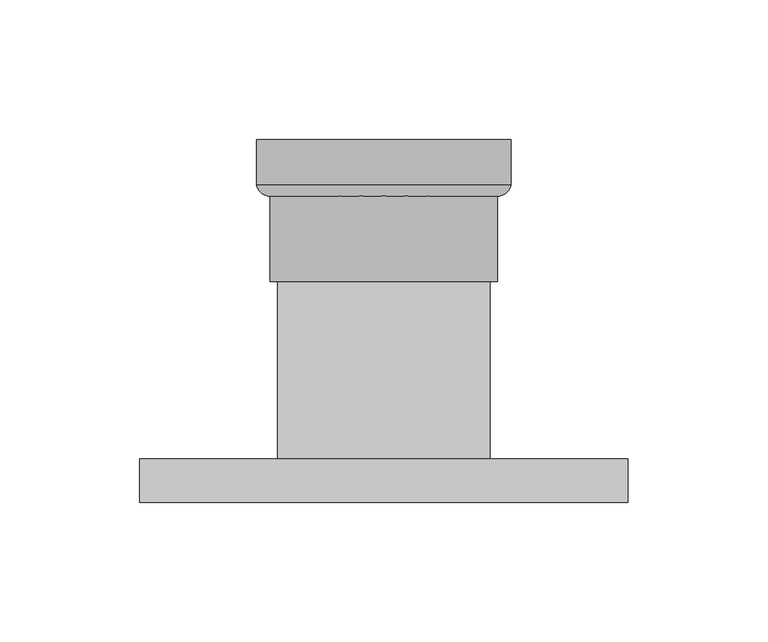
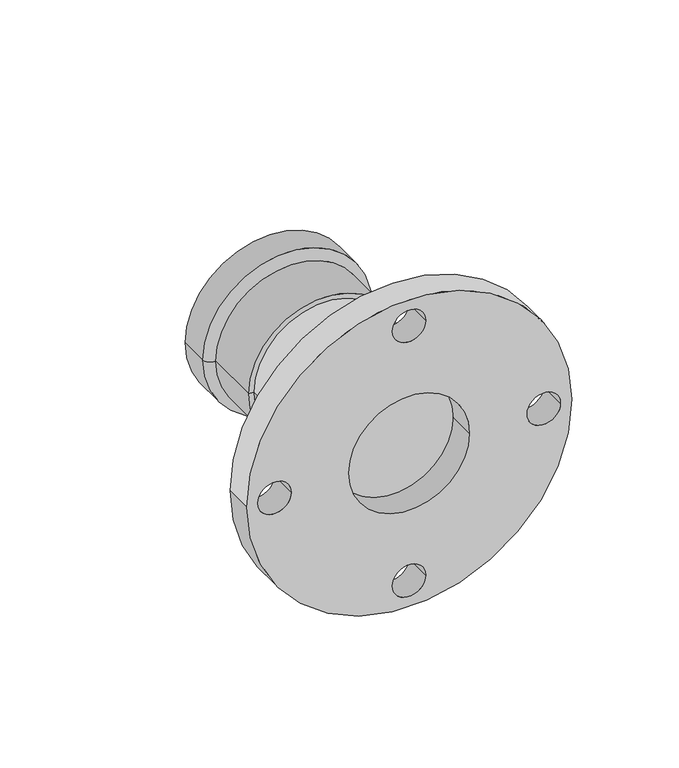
"""IFC4 building model written with IfcOpenShell, lengths in millimetres: pipe fitting geometry, VALTEC_VTi.980.I_Соединитель с переходом на фланец нержавеющая сталь : VTi.980.I."""

from ifc_helpers import new_model, si_unit, point, frame, frame_2d, origin, origin_2d, place, context, project, spatial, polyline, circle_curve, ellipse_curve, trimmed, segment, composite_curve, outline, extrude, source, transform, mapped, element, save
from ifc_brep_helpers import plane_surface, cylinder_surface, revolved_surface, advanced_brep


def pipe_fitting_af9cf9bb(model_context):
    return source(origin(), model_context, "Body", "SolidModel", [
        advanced_brep(
        [(-38.05, 130.0, 0.0), (38.05, 130.0, 0.0), (45.5, 130.0, 0.0), (-45.5, 130.0, 0.0), (-38.05, 79.19, 0.0), (38.05, 79.19, 0.0), (-40.75, 79.19, 0.0), (40.75, 79.19, 0.0), (-40.75, 109.75, 0.0), (40.75, 109.75, 0.0), (-45.5, 113.6, 0.0), (45.5, 113.6, 0.0)],
        [
            (0, 1, circle_curve(frame((0.0, 130.0, 0.0), z_axis=(0.0, -1.0, 0.0), x_axis=(1.0, 0.0, 0.0)), 38.05)),
            (1, 2),
            (2, 3, circle_curve(frame((0.0, 130.0, 0.0), z_axis=(0.0, 1.0, 0.0), x_axis=(1.0, 0.0, 0.0)), 45.5)),
            (3, 0),
            (1, 0, circle_curve(frame((0.0, 130.0, 0.0), z_axis=(0.0, -1.0, 0.0), x_axis=(1.0, 0.0, 0.0)), 38.05)),
            (3, 2, circle_curve(frame((0.0, 130.0, 0.0), z_axis=(0.0, 1.0, 0.0), x_axis=(1.0, 0.0, 0.0)), 45.5)),
            (4, 5, circle_curve(frame((0.0, 79.19, 0.0), z_axis=(0.0, -1.0, 0.0), x_axis=(1.0, 0.0, 0.0)), 38.05)),
            (5, 1),
            (0, 4),
            (5, 4, circle_curve(frame((0.0, 79.19, 0.0), z_axis=(0.0, -1.0, 0.0), x_axis=(1.0, 0.0, 0.0)), 38.05)),
            (6, 7, circle_curve(frame((0.0, 79.19, 0.0), z_axis=(0.0, -1.0, 0.0), x_axis=(1.0, 0.0, 0.0)), 40.75)),
            (7, 5),
            (4, 6),
            (7, 6, circle_curve(frame((0.0, 79.19, 0.0), z_axis=(0.0, -1.0, 0.0), x_axis=(1.0, 0.0, 0.0)), 40.75)),
            (8, 9, circle_curve(frame((0.0, 109.75, 0.0), z_axis=(0.0, -1.0, 0.0), x_axis=(1.0, 0.0, 0.0)), 40.75)),
            (9, 7),
            (6, 8),
            (9, 8, circle_curve(frame((0.0, 109.75, 0.0), z_axis=(0.0, -1.0, 0.0), x_axis=(1.0, 0.0, 0.0)), 40.75)),
            (10, 11, circle_curve(frame((0.0, 113.6, 0.0), z_axis=(0.0, -1.0, 0.0), x_axis=(1.0, 0.0, 0.0)), 45.5)),
            (11, 9, circle_curve(frame((40.862345, 114.4665873, 0.0), z_axis=(0.0, 0.0, -1.0), x_axis=(0.0, -1.0, 0.0)), 4.7179251)),
            (8, 10, circle_curve(frame((-40.862345, 114.4665873, 0.0), z_axis=(0.0, 0.0, -1.0), x_axis=(0.0, -1.0, 0.0)), 4.7179251)),
            (11, 10, circle_curve(frame((0.0, 113.6, 0.0), z_axis=(0.0, -1.0, 0.0), x_axis=(1.0, 0.0, 0.0)), 45.5)),
            (2, 11),
            (10, 3),
        ],
        [
            plane_surface(frame((0.0, 130.0, 0.0), z_axis=(0.0, 1.0, 0.0), x_axis=(1.0, 0.0, 0.0))),
            revolved_surface(polyline([(38.05, 130.0, 0.0), (38.05, 79.19, 0.0)]), (0.0, 100.1506392, 0.0), (0.0, 1.0, 0.0)),
            plane_surface(frame((0.0, 79.19, 0.0), z_axis=(0.0, -1.0, 0.0), x_axis=(1.0, 0.0, 0.0))),
            cylinder_surface(frame((0.0, 100.1506392, 0.0), z_axis=(0.0, 1.0, 0.0), x_axis=(1.0, 0.0, 0.0)), 40.75),
            revolved_surface(trimmed(ellipse_curve(frame((40.862345, 114.4665873, 0.0), z_axis=(0.0, 0.0, 1.0), x_axis=(0.0, -1.0, 0.0)), 4.7179251, 4.7179251), [point((40.75, 109.75, 0.0))], [point((45.5, 113.6, 0.0))], True, "CARTESIAN"), (0.0, 100.1506392, 0.0), (0.0, 1.0, 0.0)),
            cylinder_surface(frame((0.0, 100.1506392, 0.0), z_axis=(0.0, 1.0, 0.0), x_axis=(1.0, 0.0, 0.0)), 45.5),
        ],
        [
            (0, [[1, 2, 3, 4]]),
            (0, [[5, -4, 6, -2]]),
            (1, [[7, 8, -1, 9]]),
            (1, [[10, -9, -5, -8]]),
            (2, [[11, 12, -7, 13]]),
            (2, [[14, -13, -10, -12]]),
            (3, [[15, 16, -11, 17]]),
            (3, [[18, -17, -14, -16]]),
            (4, [[19, 20, -15, 21]]),
            (4, [[22, -21, -18, -20]]),
            (5, [[-3, 23, -19, 24]]),
            (5, [[-6, -24, -22, -23]]),
        ],
    ),
        extrude(outline(composite_curve([segment(trimmed(circle_curve(origin_2d(), 38.05), [point((0.0, -38.05))], [point((0.0, 38.05))], False, "CARTESIAN"), True, "CONTINUOUS"), segment(trimmed(circle_curve(origin_2d(), 38.05), [point((0.0, 38.05))], [point((0.0, -38.05))], False, "CARTESIAN"), True, "CONTINUOUS")], self_intersect=False)), frame((0.0, 15.5, 0.0), z_axis=(0.0, 1.0, 0.0), x_axis=(0.0, 0.0, 1.0)), (0.0, 0.0, 1.0), 66.4),
        extrude(outline(composite_curve([segment(trimmed(circle_curve(origin_2d(), 87.5), [point((0.0, -87.5))], [point((0.0, 87.5))], False, "CARTESIAN"), True, "CONTINUOUS"), segment(trimmed(circle_curve(origin_2d(), 87.5), [point((0.0, 87.5))], [point((0.0, -87.5))], False, "CARTESIAN"), True, "CONTINUOUS")], self_intersect=False), holes=[composite_curve([segment(trimmed(circle_curve(frame_2d((0.0, -72.5)), 9.0), [point((0.0, -81.5))], [point((0.0, -63.5))], True, "CARTESIAN"), True, "CONTINUOUS"), segment(trimmed(circle_curve(frame_2d((0.0, -72.5)), 9.0), [point((0.0, -63.5))], [point((0.0, -81.5))], True, "CARTESIAN"), True, "CONTINUOUS")], self_intersect=False), composite_curve([segment(trimmed(circle_curve(frame_2d((-72.5, 0.0)), 9.0), [point((-72.5, -9.0))], [point((-72.5, 9.0))], True, "CARTESIAN"), True, "CONTINUOUS"), segment(trimmed(circle_curve(frame_2d((-72.5, 0.0)), 9.0), [point((-72.5, 9.0))], [point((-72.5, -9.0))], True, "CARTESIAN"), True, "CONTINUOUS")], self_intersect=False), composite_curve([segment(trimmed(circle_curve(frame_2d((0.0, 72.5)), 9.0), [point((0.0, 63.5))], [point((0.0, 81.5))], True, "CARTESIAN"), True, "CONTINUOUS"), segment(trimmed(circle_curve(frame_2d((0.0, 72.5)), 9.0), [point((0.0, 81.5))], [point((0.0, 63.5))], True, "CARTESIAN"), True, "CONTINUOUS")], self_intersect=False), composite_curve([segment(trimmed(circle_curve(frame_2d((72.5, 0.0)), 9.0), [point((72.5, -9.0))], [point((72.5, 9.0))], True, "CARTESIAN"), True, "CONTINUOUS"), segment(trimmed(circle_curve(frame_2d((72.5, 0.0)), 9.0), [point((72.5, 9.0))], [point((72.5, -9.0))], True, "CARTESIAN"), True, "CONTINUOUS")], self_intersect=False), composite_curve([segment(trimmed(circle_curve(origin_2d(), 32.5), [point((0.0, -32.5))], [point((0.0, 32.5))], True, "CARTESIAN"), True, "CONTINUOUS"), segment(trimmed(circle_curve(origin_2d(), 32.5), [point((0.0, 32.5))], [point((0.0, -32.5))], True, "CARTESIAN"), True, "CONTINUOUS")], self_intersect=False)]), frame((0.0, 0.0, 0.0), z_axis=(0.0, 1.0, 0.0), x_axis=(0.0, 0.0, 1.0)), (0.0, 0.0, 1.0), 15.5),
    ])


if __name__ == "__main__":
    model = new_model("IFC4")
    model_context = context("Model", 3, world=origin())
    ifc_project = project(units=[si_unit("LENGTHUNIT", "METRE", prefix="MILLI")], contexts=[model_context])
    site = spatial("IfcSite", under=ifc_project)
    building = spatial("IfcBuilding", under=site)
    placement = place(None, origin())
    pipe_fitting_shape = pipe_fitting_af9cf9bb(model_context)
    element("IfcPipeFitting", 1, ObjectType="VALTEC_VTi.980.I_Соединитель с переходом на фланец нержавеющая сталь : VTi.980.I", at=placement, inside=building, context=model_context, shape_type="MappedRepresentation", body=[
        mapped(pipe_fitting_shape, transform((0.0, 0.0, 0.0), x_axis=(1.0, 0.0, 0.0), y_axis=(0.0, 1.0, 0.0), z_axis=(0.0, 0.0, 1.0))),
    ])
    save(model, "model.ifc")
